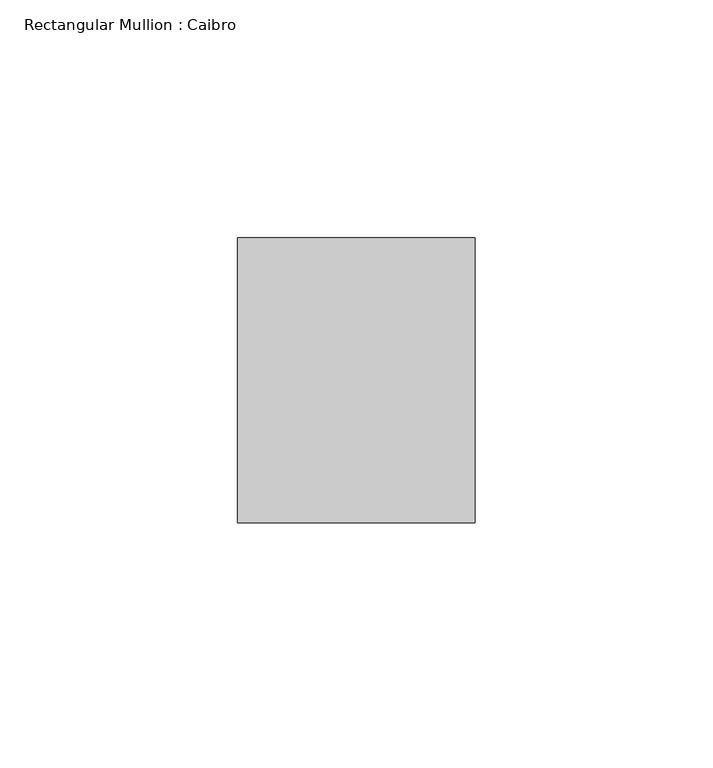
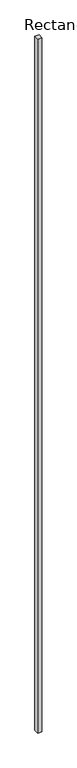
"""IFC4 building model written with IfcOpenShell, lengths in millimetres: member geometry, Rectangular Mullion : Caibro."""

from ifc_helpers import new_model, si_unit, frame, origin, place, context, project, spatial, polyline, outline, extrude, source, transform, mapped, element, save


def rectangular_mullion_caibro_31aaa4d9(model_context):
    return source(origin(), model_context, "Body", "SweptSolid", [
        extrude(outline(polyline([(0.0, -60.0), (-50.0, -60.0), (-50.0, 0.0), (0.0, 0.0), (0.0, -60.0)])), frame((0.0, 0.0, -8943.4436228), z_axis=(0.0, 0.0, 1.0), x_axis=(1.0, 0.0, 0.0)), (0.0, 0.0, 1.0), 8943.4436228),
    ])


if __name__ == "__main__":
    model = new_model("IFC4")
    model_context = context("Model", 3, world=origin())
    ifc_project = project(units=[si_unit("LENGTHUNIT", "METRE", prefix="MILLI")], contexts=[model_context])
    site = spatial("IfcSite", under=ifc_project)
    building = spatial("IfcBuilding", under=site)
    placement = place(None, origin())
    rectangular_mullion_caibro_shape = rectangular_mullion_caibro_31aaa4d9(model_context)
    element("IfcMember", 1, ObjectType="Rectangular Mullion : Caibro", at=placement, inside=building, context=model_context, shape_type="MappedRepresentation", body=[
        mapped(rectangular_mullion_caibro_shape, transform((0.0, 0.0, 0.0), x_axis=(1.0, 0.0, 0.0), y_axis=(0.0, 1.0, 0.0), z_axis=(0.0, 0.0, 1.0))),
    ])
    save(model, "model.ifc")
